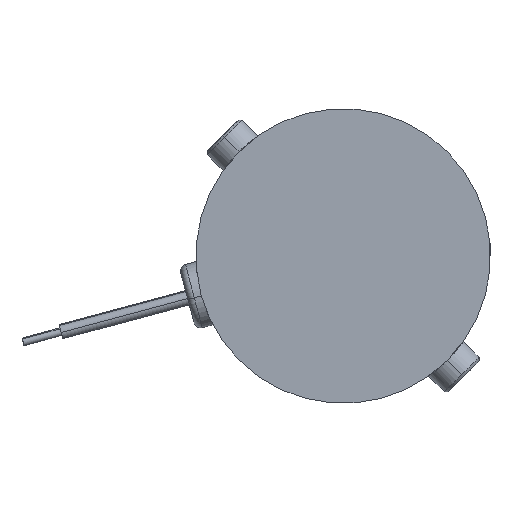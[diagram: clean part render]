
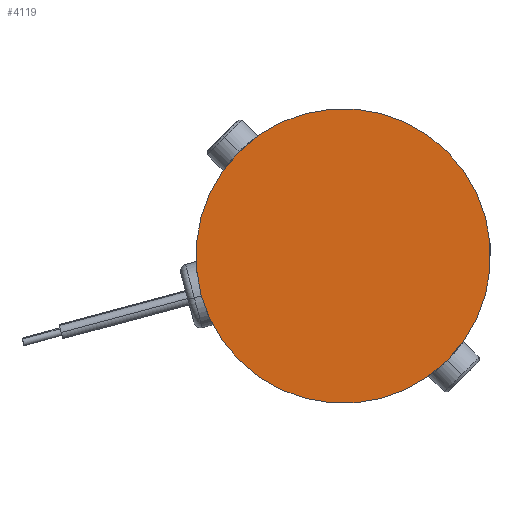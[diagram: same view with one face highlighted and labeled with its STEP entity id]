
A CAD part, left-side view. The second image highlights one B-rep face of the part: STEP entity #4119.
In plain terms, the highlighted planar face has unit normal (-1, 0, 0).
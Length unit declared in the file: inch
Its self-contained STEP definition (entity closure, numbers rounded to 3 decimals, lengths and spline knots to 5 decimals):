
#321 = CIRCLE ( 'NONE', #2575, 1.125 ) ;
#453 = FACE_OUTER_BOUND ( 'NONE', #2512, .T. ) ;
#799 = CARTESIAN_POINT ( 'NONE',  ( -5.40487, 3.72848, -3.73857 ) ) ;
#1730 = DIRECTION ( 'NONE',  ( 1., 0., 0. ) ) ;
#1873 = CARTESIAN_POINT ( 'NONE',  ( -5.40487, 2.93298, -4.53407 ) ) ;
#1919 = ORIENTED_EDGE ( 'NONE', *, *, #2107, .F. ) ;
#2107 = EDGE_CURVE ( 'NONE', #5934, #2717, #5962, .T. ) ;
#2272 = DIRECTION ( 'NONE',  ( 1., 0., 0. ) ) ;
#2512 = EDGE_LOOP ( 'NONE', ( #1919, #7460 ) ) ;
#2575 = AXIS2_PLACEMENT_3D ( 'NONE', #5239, #1730, #5924 ) ;
#2717 = VERTEX_POINT ( 'NONE', #1873 ) ;
#3380 = AXIS2_PLACEMENT_3D ( 'NONE', #799, #2272, #3604 ) ;
#3604 = DIRECTION ( 'NONE',  ( 0., -0.707, -0.707 ) ) ;
#3815 = DIRECTION ( 'NONE',  ( 1., 0., 0. ) ) ;
#4119 = ADVANCED_FACE ( 'NONE', ( #453 ), #7899, .F. ) ;
#4256 = CARTESIAN_POINT ( 'NONE',  ( -5.40487, 4.52397, -2.94308 ) ) ;
#5239 = CARTESIAN_POINT ( 'NONE',  ( -5.40487, 3.72848, -3.73857 ) ) ;
#5924 = DIRECTION ( 'NONE',  ( 0., -0.707, -0.707 ) ) ;
#5934 = VERTEX_POINT ( 'NONE', #4256 ) ;
#5962 = CIRCLE ( 'NONE', #6652, 1.125 ) ;
#6067 = EDGE_CURVE ( 'NONE', #2717, #5934, #321, .T. ) ;
#6652 = AXIS2_PLACEMENT_3D ( 'NONE', #8053, #3815, #8756 ) ;
#7460 = ORIENTED_EDGE ( 'NONE', *, *, #6067, .F. ) ;
#7899 = PLANE ( 'NONE',  #3380 ) ;
#8053 = CARTESIAN_POINT ( 'NONE',  ( -5.40487, 3.72848, -3.73857 ) ) ;
#8756 = DIRECTION ( 'NONE',  ( 0., -0.707, -0.707 ) ) ;
